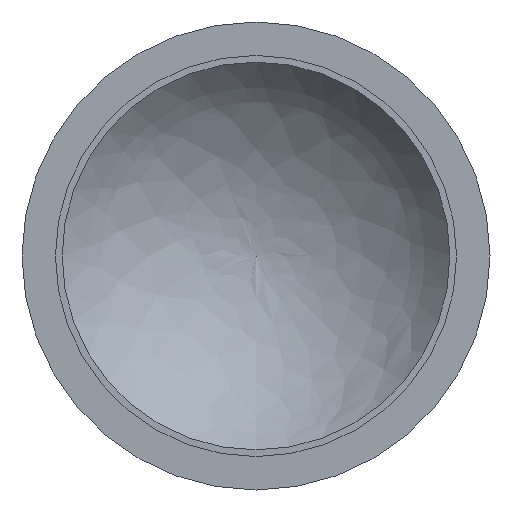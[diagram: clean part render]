
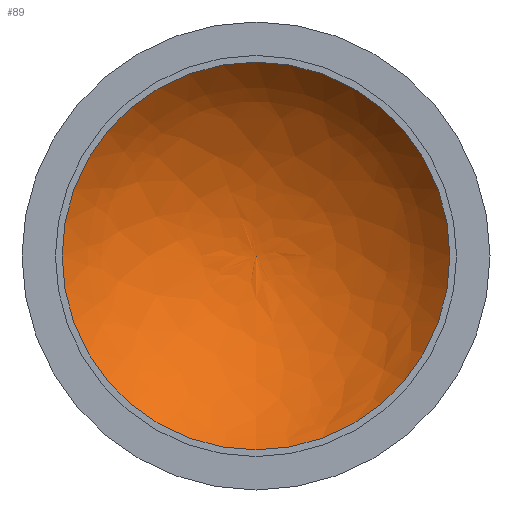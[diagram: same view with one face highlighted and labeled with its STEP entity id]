
A CAD part, front view. The second image highlights one B-rep face of the part: STEP entity #89.
In plain terms, the highlighted free-form (B-spline) face has degree [2, 2] with [3, 9] control points.
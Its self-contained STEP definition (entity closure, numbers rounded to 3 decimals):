
#17=(
BOUNDED_CURVE()
B_SPLINE_CURVE(2,(#175,#176,#177),.UNSPECIFIED.,.F.,.F.)
B_SPLINE_CURVE_WITH_KNOTS((3,3),(-1.527,-0.697),
 .UNSPECIFIED.)
CURVE()
GEOMETRIC_REPRESENTATION_ITEM()
RATIONAL_B_SPLINE_CURVE((1.,0.915,1.))
REPRESENTATION_ITEM('')
);
#18=(
BOUNDED_SURFACE()
B_SPLINE_SURFACE(2,2,((#146,#147,#148,#149,#150,#151,#152,#153,#154),(#155,
#156,#157,#158,#159,#160,#161,#162,#163),(#164,#165,#166,#167,#168,#169,
#170,#171,#172)),.UNSPECIFIED.,.F.,.T.,.F.)
B_SPLINE_SURFACE_WITH_KNOTS((3,3),(3,2,2,2,3),(0.697,1.527),
(-3.142,-1.571,0.,1.571,3.142),
 .UNSPECIFIED.)
GEOMETRIC_REPRESENTATION_ITEM()
RATIONAL_B_SPLINE_SURFACE(((1.,0.707,1.,0.707,1.,
0.707,1.,0.707,1.),(0.915,0.647,
0.915,0.647,0.915,0.647,
0.915,0.647,0.915),(1.,0.707,
1.,0.707,1.,0.707,1.,0.707,1.)))
REPRESENTATION_ITEM('')
SURFACE()
);
#30=FACE_OUTER_BOUND('',#39,.T.);
#39=EDGE_LOOP('',(#74,#75,#76,#77));
#49=CIRCLE('',#101,43.5);
#50=CIRCLE('',#102,43.5);
#56=VERTEX_POINT('',#173);
#57=VERTEX_POINT('',#174);
#58=VERTEX_POINT('',#178);
#64=EDGE_CURVE('',#56,#57,#17,.T.);
#65=EDGE_CURVE('',#58,#57,#49,.T.);
#66=EDGE_CURVE('',#57,#58,#50,.T.);
#74=ORIENTED_EDGE('',*,*,#64,.T.);
#75=ORIENTED_EDGE('',*,*,#65,.F.);
#76=ORIENTED_EDGE('',*,*,#66,.F.);
#77=ORIENTED_EDGE('',*,*,#64,.F.);
#89=ADVANCED_FACE('',(#30),#18,.T.);
#101=AXIS2_PLACEMENT_3D('',#179,#122,#123);
#102=AXIS2_PLACEMENT_3D('',#180,#124,#125);
#122=DIRECTION('center_axis',(0.,1.,0.));
#123=DIRECTION('ref_axis',(1.,0.,0.));
#124=DIRECTION('center_axis',(0.,1.,0.));
#125=DIRECTION('ref_axis',(1.,0.,0.));
#146=CARTESIAN_POINT('Ctrl Pts',(0.,52.,-43.5));
#147=CARTESIAN_POINT('Ctrl Pts',(-43.5,52.,-43.5));
#148=CARTESIAN_POINT('Ctrl Pts',(-43.5,52.,0.));
#149=CARTESIAN_POINT('Ctrl Pts',(-43.5,52.,43.5));
#150=CARTESIAN_POINT('Ctrl Pts',(0.,52.,43.5));
#151=CARTESIAN_POINT('Ctrl Pts',(43.5,52.,43.5));
#152=CARTESIAN_POINT('Ctrl Pts',(43.5,52.,0.));
#153=CARTESIAN_POINT('Ctrl Pts',(43.5,52.,-43.5));
#154=CARTESIAN_POINT('Ctrl Pts',(0.,52.,-43.5));
#155=CARTESIAN_POINT('Ctrl Pts',(0.,72.331,-26.485));
#156=CARTESIAN_POINT('Ctrl Pts',(-26.485,72.331,-26.485));
#157=CARTESIAN_POINT('Ctrl Pts',(-26.485,72.331,0.));
#158=CARTESIAN_POINT('Ctrl Pts',(-26.485,72.331,26.485));
#159=CARTESIAN_POINT('Ctrl Pts',(0.,72.331,26.485));
#160=CARTESIAN_POINT('Ctrl Pts',(26.485,72.331,26.485));
#161=CARTESIAN_POINT('Ctrl Pts',(26.485,72.331,0.));
#162=CARTESIAN_POINT('Ctrl Pts',(26.485,72.331,-26.485));
#163=CARTESIAN_POINT('Ctrl Pts',(0.,72.331,-26.485));
#164=CARTESIAN_POINT('Ctrl Pts',(0.,73.5,0.));
#165=CARTESIAN_POINT('Ctrl Pts',(0.,73.5,0.));
#166=CARTESIAN_POINT('Ctrl Pts',(0.,73.5,0.));
#167=CARTESIAN_POINT('Ctrl Pts',(0.,73.5,0.));
#168=CARTESIAN_POINT('Ctrl Pts',(0.,73.5,0.));
#169=CARTESIAN_POINT('Ctrl Pts',(0.,73.5,0.));
#170=CARTESIAN_POINT('Ctrl Pts',(0.,73.5,0.));
#171=CARTESIAN_POINT('Ctrl Pts',(0.,73.5,0.));
#172=CARTESIAN_POINT('Ctrl Pts',(0.,73.5,0.));
#173=CARTESIAN_POINT('',(0.,73.5,0.));
#174=CARTESIAN_POINT('',(0.,52.,-43.5));
#175=CARTESIAN_POINT('Ctrl Pts',(0.,73.5,0.));
#176=CARTESIAN_POINT('Ctrl Pts',(0.,72.331,-26.485));
#177=CARTESIAN_POINT('Ctrl Pts',(0.,52.,-43.5));
#178=CARTESIAN_POINT('',(-43.5,52.,0.));
#179=CARTESIAN_POINT('Origin',(0.,52.,0.));
#180=CARTESIAN_POINT('Origin',(0.,52.,0.));
